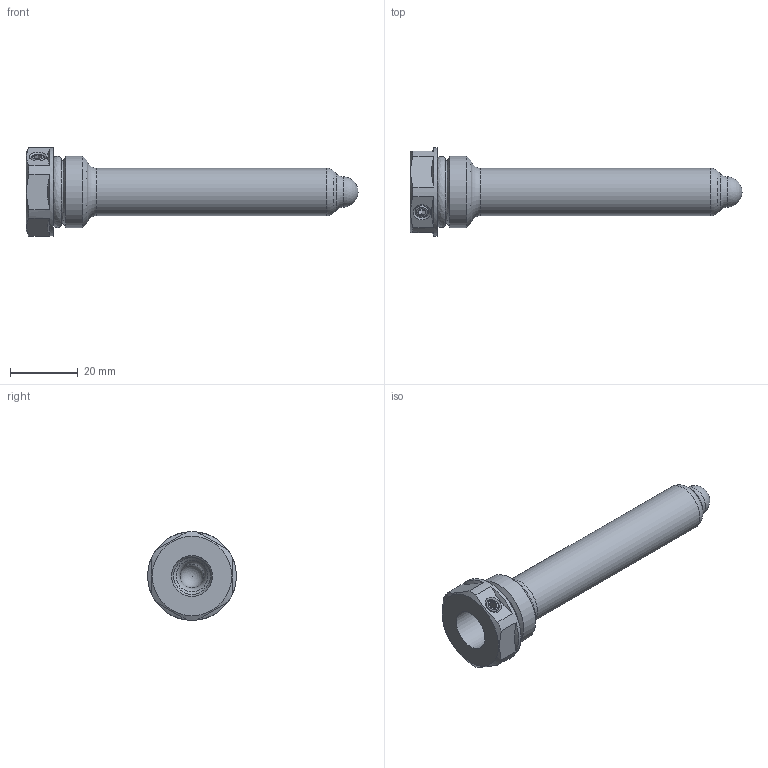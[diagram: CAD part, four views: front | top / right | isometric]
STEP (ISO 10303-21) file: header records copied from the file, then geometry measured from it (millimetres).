
FILE_DESCRIPTION(('TFLEX Exchange Step'),'2;1');
FILE_NAME('Sleeve DN12 1_2 VT.3011.0.0 Valtec.stp', '2023-09-12T17:24:13+03:00',('denis'),('Unknown organisation'),'TFLEX Exchange 2023.0','T-FLEX CAD','Unknown authorisation');
FILE_SCHEMA( ('AUTOMOTIVE_DESIGN { 1 0 10303 214 1 1 1 1 }') );
Length unit declared in the file: millimetre
Products named in the file (1): Nodes
Bounding box: 98 x 26.2 x 26.2 mm (x, y, z)
Volume: 8512.6 mm3; surface area: 9621.4 mm2
Topology: 3 solids, 3 shells, 52 faces, 131 edges, 82 vertices
Faces by surface type: cone 22, plane 15, cylinder 7, torus 5, sphere 2, bspline 1
Full cylindrical faces by diameter (mm): 3.188 x1, 4 x1, 12 x1, 14 x1, 18.4 x1, 21 x1, 26.2 x1
Entity records: 2419 total; most frequent: CARTESIAN_POINT 1143, DIRECTION 269, ORIENTED_EDGE 254, EDGE_CURVE 127, AXIS2_PLACEMENT_3D 117, VERTEX_POINT 82, CIRCLE 65, EDGE_LOOP 57
